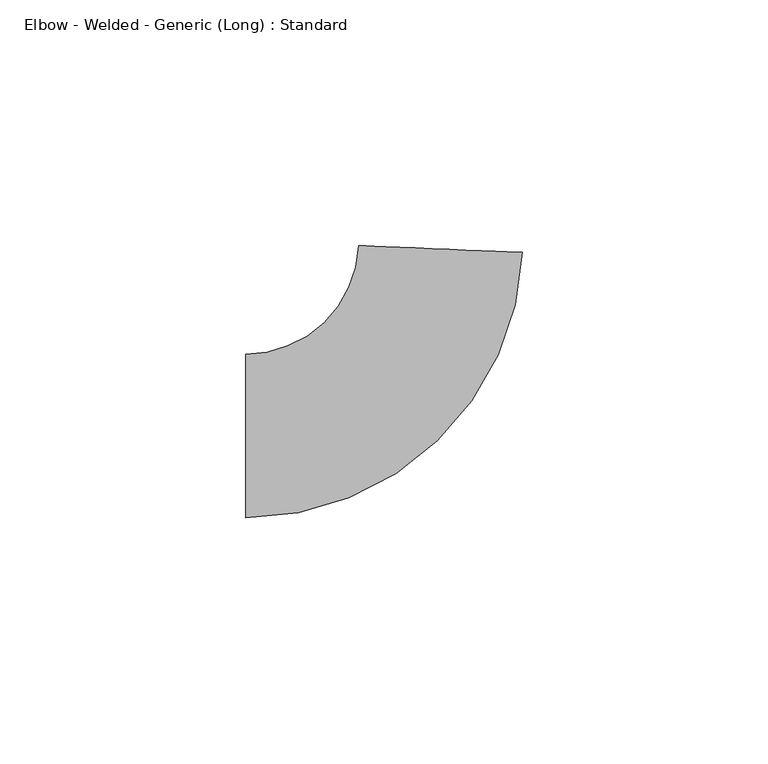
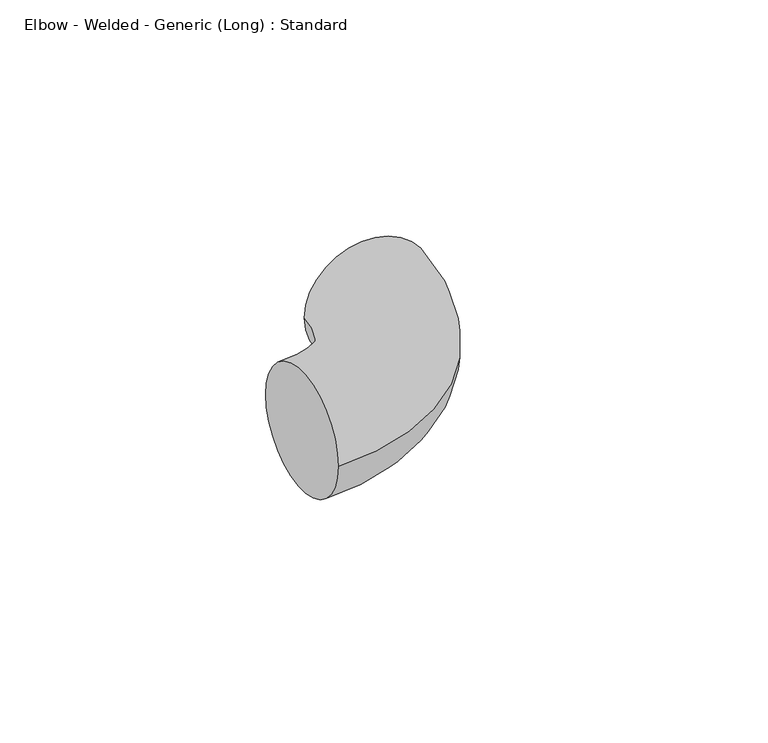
"""IFC4 building model written with IfcOpenShell, lengths in millimetres: pipe fitting geometry, Elbow - Welded - Generic (Long) : Standard."""

import ifcopenshell
import ifcopenshell.guid

model = None  # the IFC model being written
_history = None  # IfcOwnerHistory: only IFC2X3 demands one
_inside = {}  # id of a spatial element -> (the spatial element, [elements in it])
_under = {}  # id of a project, library or spatial element -> (it, [spatial elements below it])
_declared = {}  # id of a project -> (the project, [libraries it declares])
_typed = {}  # id of a type object -> (the type object, [elements of that type])
_made_of = {}  # id of a material, layer set ... -> (it, [elements and type objects made of it])


def new_model(schema):
    """Start an empty IFC model of exactly this schema.

    Asked for "IFC4X3", IfcOpenShell would pick the latest addendum, in which some entities
    have other attributes; the version numbers below select the first issue.
    IFC2X3 requires an IfcOwnerHistory on every rooted entity: one is made here for all.
    """
    global model, _history
    if schema == "IFC4X3":
        model = ifcopenshell.file(schema_version=(4, 3, 0, 0))
    else:
        model = ifcopenshell.file(schema=schema)
    _inside.clear()
    _under.clear()
    _declared.clear()
    _typed.clear()
    _made_of.clear()
    _history = None
    if model.schema == "IFC2X3":
        org = make("IfcOrganization", Name="unknown")
        user = make(
            "IfcPersonAndOrganization",
            ThePerson=make("IfcPerson", FamilyName="unknown"),
            TheOrganization=org,
        )
        app = make(
            "IfcApplication",
            ApplicationDeveloper=org,
            Version="unknown",
            ApplicationFullName="unknown",
            ApplicationIdentifier="unknown",
        )
        _history = make(
            "IfcOwnerHistory",
            OwningUser=user,
            OwningApplication=app,
            ChangeAction="ADDED",
            CreationDate=0,
        )
    return model


def make(cls, **values):
    """One entity of the class cls with the attributes given. An attribute that is None is left unset."""
    return model.create_entity(
        cls, **{name: value for name, value in values.items() if value is not None}
    )


def rooted(cls, **values):
    """An entity with a GlobalId (a new one), such as an element, a storey or a relation."""
    return make(cls, GlobalId=ifcopenshell.guid.new(), OwnerHistory=_history, **values)


def si_unit(unit_type, name, prefix=None):
    """IfcSIUnit, for example si_unit("LENGTHUNIT", "METRE", prefix="MILLI")."""
    return make("IfcSIUnit", UnitType=unit_type, Prefix=prefix, Name=name)


def assignment(units):
    """IfcUnitAssignment: the units of a project."""
    return None if units is None else make("IfcUnitAssignment", Units=units)


def point(xyz):
    """IfcCartesianPoint."""
    return None if xyz is None else make("IfcCartesianPoint", Coordinates=xyz)


def direction(xyz):
    """IfcDirection."""
    return None if xyz is None else make("IfcDirection", DirectionRatios=xyz)


def frame(location, z_axis=None, x_axis=None):
    """IfcAxis2Placement3D, a coordinate frame: its origin and axes. An axis left out is left unset."""
    return make(
        "IfcAxis2Placement3D",
        Location=point(location),
        Axis=direction(z_axis),
        RefDirection=direction(x_axis),
    )


def origin():
    """The frame at (0, 0, 0) with its axes left unset."""
    return frame((0.0, 0.0, 0.0))


def place(relative_to, where):
    """IfcLocalPlacement: puts the frame where relative to a parent placement (None: the world)."""
    return make(
        "IfcLocalPlacement", PlacementRelTo=relative_to, RelativePlacement=where
    )


def context(
    kind, dimensions, precision=None, world=None, true_north=None, identifier=None
):
    """IfcGeometricRepresentationContext, for example the 3D "Model" context."""
    return make(
        "IfcGeometricRepresentationContext",
        ContextIdentifier=identifier,
        ContextType=kind,
        CoordinateSpaceDimension=dimensions,
        Precision=precision,
        WorldCoordinateSystem=world,
        TrueNorth=true_north,
    )


def project(units=None, contexts=None):
    """IfcProject with its units and contexts."""
    return rooted(
        "IfcProject",
        Name="project",
        RepresentationContexts=contexts,
        UnitsInContext=assignment(units),
    )


def spatial(cls, under=None, at=None, **own):
    """A site, building, storey or space (cls), placed at a placement, below another one or the project."""
    s = rooted(cls, ObjectPlacement=at, **own)
    if under is not None:
        _under.setdefault(under.id(), (under, []))[1].append(s)
    return s


def circle_curve(where, radius):
    """IfcCircle in the frame where."""
    return make("IfcCircle", Position=where, Radius=radius)


def ellipse_curve(where, semi_axis1, semi_axis2):
    """IfcEllipse in the frame where."""
    return make(
        "IfcEllipse", Position=where, SemiAxis1=semi_axis1, SemiAxis2=semi_axis2
    )


def trimmed(basis, trim1, trim2, sense, master):
    """IfcTrimmedCurve: the piece of a basis curve between two trims."""
    return make(
        "IfcTrimmedCurve",
        BasisCurve=basis,
        Trim1=trim1,
        Trim2=trim2,
        SenseAgreement=sense,
        MasterRepresentation=master,
    )


def shape(context_of_items, identifier, shape_type, items):
    """IfcShapeRepresentation: the items that make up one representation, for example the "Body"."""
    return make(
        "IfcShapeRepresentation",
        ContextOfItems=context_of_items,
        RepresentationIdentifier=identifier,
        RepresentationType=shape_type,
        Items=items,
    )


def source(mapping_origin, context_of_items, identifier, shape_type, items):
    """IfcRepresentationMap: a shape defined once, which mapped items show again and again."""
    return make(
        "IfcRepresentationMap",
        MappingOrigin=mapping_origin,
        MappedRepresentation=shape(context_of_items, identifier, shape_type, items),
    )


def transform(
    local_origin,
    x_axis=None,
    y_axis=None,
    z_axis=None,
    scale=None,
    scale2=None,
    scale3=None,
    uniform=True,
):
    """IfcCartesianTransformationOperator3D, or its non-uniform kind. x_axis, y_axis, z_axis: its Axis1, 2, 3."""
    if uniform:
        return make(
            "IfcCartesianTransformationOperator3D",
            Axis1=direction(x_axis),
            Axis2=direction(y_axis),
            LocalOrigin=point(local_origin),
            Scale=scale,
            Axis3=direction(z_axis),
        )
    return make(
        "IfcCartesianTransformationOperator3DnonUniform",
        Axis1=direction(x_axis),
        Axis2=direction(y_axis),
        LocalOrigin=point(local_origin),
        Scale=scale,
        Axis3=direction(z_axis),
        Scale2=scale2,
        Scale3=scale3,
    )


def mapped(mapping_source, mapping_target):
    """IfcMappedItem: shows the shape of a source again, moved by a transform."""
    return make(
        "IfcMappedItem", MappingSource=mapping_source, MappingTarget=mapping_target
    )


def made_of(thing, what):
    """Note that an element or type object is made of a material, layer set ...; save() writes the relation."""
    if what is not None:
        _made_of.setdefault(what.id(), (what, []))[1].append(thing)
    return thing


def element(
    cls,
    number,
    at=None,
    inside=None,
    cuts=None,
    type_object=None,
    material=None,
    context=None,
    identifier="Body",
    shape_type=None,
    held_by="IfcProductDefinitionShape",
    body=None,
    shapes=None,
    **own,
):
    """One element of the class cls, such as IfcWall. Its Tag is "e" and its number.

    at: its placement. inside: the storey or other place that contains it. cuts: it is an
    opening in that element (IfcRelVoidsElement). A single representation is given by context,
    identifier, shape_type and body (its items); several are given by shapes. held_by: the class
    of the entity that holds the representations. save() writes the other relations.
    """
    e = rooted(cls, Tag="e%d" % number, ObjectPlacement=at, **own)
    if body is not None:
        shapes = [shape(context, identifier, shape_type, body)]
    if shapes is not None:
        e.Representation = make(held_by, Representations=shapes)
    if inside is not None:
        _inside.setdefault(inside.id(), (inside, []))[1].append(e)
    if cuts is not None:
        rooted(
            "IfcRelVoidsElement", RelatingBuildingElement=cuts, RelatedOpeningElement=e
        )
    if type_object is not None:
        _typed.setdefault(type_object.id(), (type_object, []))[1].append(e)
    return made_of(e, material)


def aggregate(whole, parts):
    """IfcRelAggregates: a whole, such as a stair, and the parts it consists of."""
    return rooted("IfcRelAggregates", RelatingObject=whole, RelatedObjects=parts)


def save(model, path):
    """Write the relations noted so far, then the file.

    IfcRelAggregates (storeys below a building ...), IfcRelContainedInSpatialStructure (elements
    in a storey), IfcRelDefinesByType, IfcRelAssociatesMaterial and IfcRelDeclares: one each for
    every whole, place, type object, material and project.
    """
    for whole, parts in _under.values():
        aggregate(whole, parts)
    for where, things in _inside.values():
        rooted(
            "IfcRelContainedInSpatialStructure",
            RelatedElements=things,
            RelatingStructure=where,
        )
    for kind, things in _typed.values():
        rooted("IfcRelDefinesByType", RelatedObjects=things, RelatingType=kind)
    for what, things in _made_of.values():
        rooted("IfcRelAssociatesMaterial", RelatedObjects=things, RelatingMaterial=what)
    for by, libraries in _declared.values():
        rooted("IfcRelDeclares", RelatingContext=by, RelatedDefinitions=libraries)
    model.write(path)


def plane_surface(at):
    """IfcPlane: the flat surface through the origin of the frame at, square to its z axis."""
    return make("IfcPlane", Position=at)


def revolved_surface(curve, axis_point, axis_direction):
    """IfcSurfaceOfRevolution: the curve turned about the line through axis_point along axis_direction."""
    return make(
        "IfcSurfaceOfRevolution",
        SweptCurve=make("IfcArbitraryOpenProfileDef", ProfileType="CURVE", Curve=curve),
        AxisPosition=make("IfcAxis1Placement", Location=point(axis_point), Axis=direction(axis_direction)),
    )


def advanced_brep(points, edges, surfaces, faces):
    """IfcAdvancedBrep: a solid bounded by faces that lie on surfaces and meet in shared edges.

    An edge is (start, end): straight between two places in points (the first is 0);
    or (start, end, curve); or (start, end, curve, False) where it runs against its curve.
    A face is (place in surfaces, loops), or (place, loops, False) where it looks against
    its surface's normal. A loop lists edges by number (the first is 1), with a minus sign
    where the edge is run from its end to its start. The first loop is the outer one.
    """
    corners = [point(p) for p in points]
    vertices = [make("IfcVertexPoint", VertexGeometry=c) for c in corners]
    made = []
    for start, end, *more in edges:
        made.append(
            make(
                "IfcEdgeCurve",
                EdgeStart=vertices[start],
                EdgeEnd=vertices[end],
                EdgeGeometry=more[0] if more else make("IfcPolyline", Points=[corners[start], corners[end]]),
                SameSense=more[1] if len(more) > 1 else True,
            )
        )
    hull = []
    for where, loops, *sense in faces:
        bounds = []
        for j, loop in enumerate(loops):
            ring = [make("IfcOrientedEdge", EdgeElement=made[abs(k) - 1], Orientation=k > 0) for k in loop]
            bounds.append(
                make(
                    "IfcFaceOuterBound" if j == 0 else "IfcFaceBound",
                    Bound=make("IfcEdgeLoop", EdgeList=ring),
                    Orientation=True,
                )
            )
        hull.append(make("IfcAdvancedFace", Bounds=bounds, FaceSurface=surfaces[where], SameSense=sense[0] if sense else True))
    return make("IfcAdvancedBrep", Outer=make("IfcClosedShell", CfsFaces=hull))


def elbow_welded_generic_long_standard_6e3755b9(model_context):
    return source(origin(), model_context, "Body", "AdvancedBrep", [
        advanced_brep(
        [(-38.1, -16.66875, 0.0), (-38.1, 16.66875, 0.0), (18.2404232, 37.3730409, 0.0), (-15.0681757, 38.7608992, 0.0)],
        [
            (0, 1, circle_curve(frame((-38.1, 0.0, 0.0), z_axis=(-1.0, 0.0, 0.0), x_axis=(0.0, 1.0, 0.0)), 16.66875)),
            (1, 0, circle_curve(frame((-38.1, 0.0, 0.0), z_axis=(-1.0, 0.0, 0.0), x_axis=(0.0, 1.0, 0.0)), 16.66875)),
            (2, 3, circle_curve(frame((1.5861238, 38.0669701, 0.0), z_axis=(0.04163054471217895, 0.9991330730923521, 0.0), x_axis=(-0.9991330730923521, 0.04163054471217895, 0.0)), 16.66875)),
            (3, 2, circle_curve(frame((1.5861238, 38.0669701, 0.0), z_axis=(0.04163054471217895, 0.9991330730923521, 0.0), x_axis=(-0.9991330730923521, 0.04163054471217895, 0.0)), 16.66875)),
            (3, 1, circle_curve(frame((-38.1, 39.7205586, 0.0), z_axis=(0.0, 0.0, -1.0), x_axis=(0.0, -1.0, 0.0)), 23.0518086)),
            (0, 2, circle_curve(frame((-38.1, 39.7205586, 0.0), z_axis=(0.0, 0.0, 1.0), x_axis=(0.0, -1.0, 0.0)), 56.3893086)),
        ],
        [
            plane_surface(frame((-38.1, 0.0, 0.0), z_axis=(-1.0, 0.0, 0.0), x_axis=(0.0, 0.0, 1.0))),
            plane_surface(frame((1.5861238, 38.0669701, 0.0), z_axis=(0.04163054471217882, 0.9991330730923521, 0.0), x_axis=(0.0, 0.0, 1.0))),
            revolved_surface(trimmed(ellipse_curve(frame((-38.1, 0.0, 0.0), z_axis=(-1.0, 0.0, 0.0), x_axis=(0.0, 1.0, 0.0)), 16.66875, 16.66875), [point((-38.1, -16.66875, 0.0))], [point((-38.1, 16.66875, 0.0))], True, "CARTESIAN"), (-38.1, 39.7205586, 0.0), (0.0, 0.0, 1.0)),
            revolved_surface(trimmed(ellipse_curve(frame((-38.1, 0.0, 0.0), z_axis=(-1.0, 0.0, 0.0), x_axis=(0.0, 1.0, 0.0)), 16.66875, 16.66875), [point((-38.1, 16.66875, 0.0))], [point((-38.1, -16.66875, 0.0))], True, "CARTESIAN"), (-38.1, 39.7205586, 0.0), (0.0, 0.0, 1.0)),
        ],
        [
            (0, [[1, 2]]),
            (1, [[3, 4]]),
            (2, [[5, -1, 6, -4]]),
            (3, [[-6, -2, -5, -3]]),
        ],
    ),
    ])


if __name__ == "__main__":
    model = new_model("IFC4")
    model_context = context("Model", 3, world=origin())
    ifc_project = project(units=[si_unit("LENGTHUNIT", "METRE", prefix="MILLI")], contexts=[model_context])
    site = spatial("IfcSite", under=ifc_project)
    building = spatial("IfcBuilding", under=site)
    placement = place(None, origin())
    elbow_welded_generic_long_standard_shape = elbow_welded_generic_long_standard_6e3755b9(model_context)
    element("IfcPipeFitting", 1, ObjectType="Elbow - Welded - Generic (Long) : Standard", at=placement, inside=building, context=model_context, shape_type="MappedRepresentation", body=[
        mapped(elbow_welded_generic_long_standard_shape, transform((0.0, 0.0, 0.0), x_axis=(1.0, 0.0, 0.0), y_axis=(0.0, 1.0, 0.0), z_axis=(0.0, 0.0, 1.0))),
    ])
    save(model, "model.ifc")
